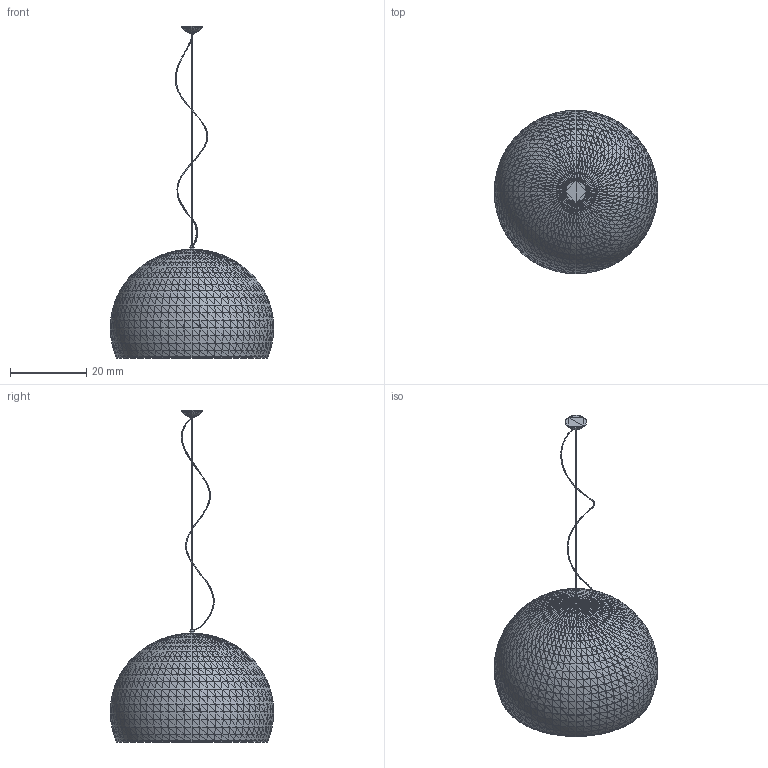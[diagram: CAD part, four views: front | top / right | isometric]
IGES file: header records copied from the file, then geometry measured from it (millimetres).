
Global section: file name: E:\Modelli 3D Kartell_3dd\Prodotti Revisione 1_3dd\ex novo_3dd\9053\Small Fly_3d_Ferruccio Laviani_Kartell.IGS; native system: Rhinoceros ( Mar 10 2014 ); preprocessor: Trout Lake IGES 012 Mar 10 2014; date: 180216.143256; units: millimetre
Bounding box: 42.83 x 42.83 x 86.89 mm (x, y, z)
Surface area: 8664.3 mm2 (no closed solid volume)
Topology: 0 solids, 0 shells, 11918 faces, 35754 edges, 35754 vertices
Faces by surface type: bspline 11918
